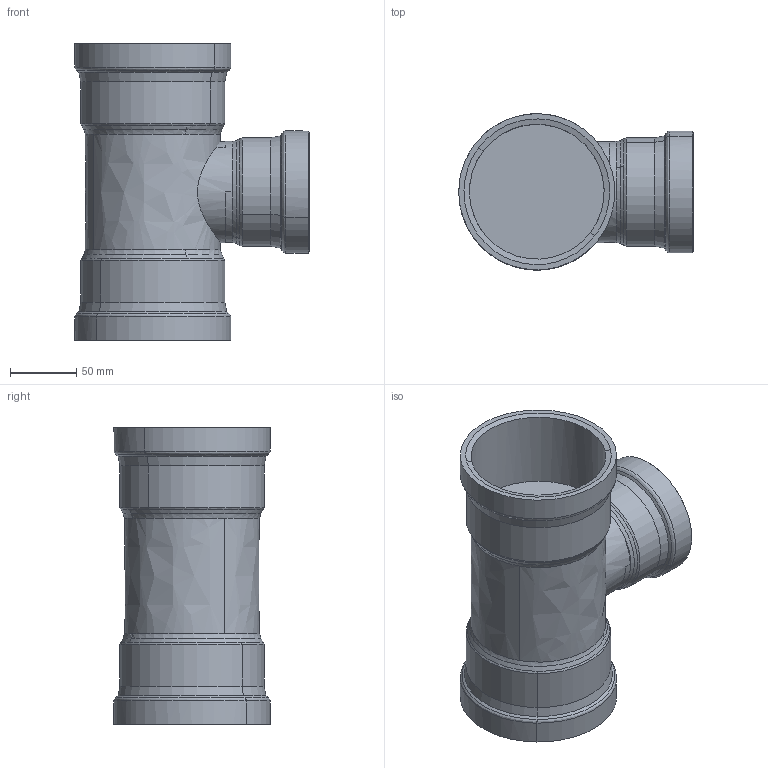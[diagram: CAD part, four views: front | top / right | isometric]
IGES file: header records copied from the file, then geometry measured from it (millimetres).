
Start section: 3D InterOp IGES (Version 25 0 1), Spatial Corp. Copyright (c) 1999-2007.
Global section: file name: pim0004537.igs; native system: Spatial Corp.; preprocessor: 3D InterOp ACIS/IGES; author: Cad-Pim; organization: TransMagic, Inc.; date: 20150430.165649; units: millimetre
Bounding box: 176.52 x 117.5 x 223 mm (x, y, z)
Volume: 1210783.1 mm3; surface area: 169829 mm2
Topology: 1 solids, 1 shells, 75 faces, 211 edges, 142 vertices
Faces by surface type: bspline 29, cone 26, cylinder 20
